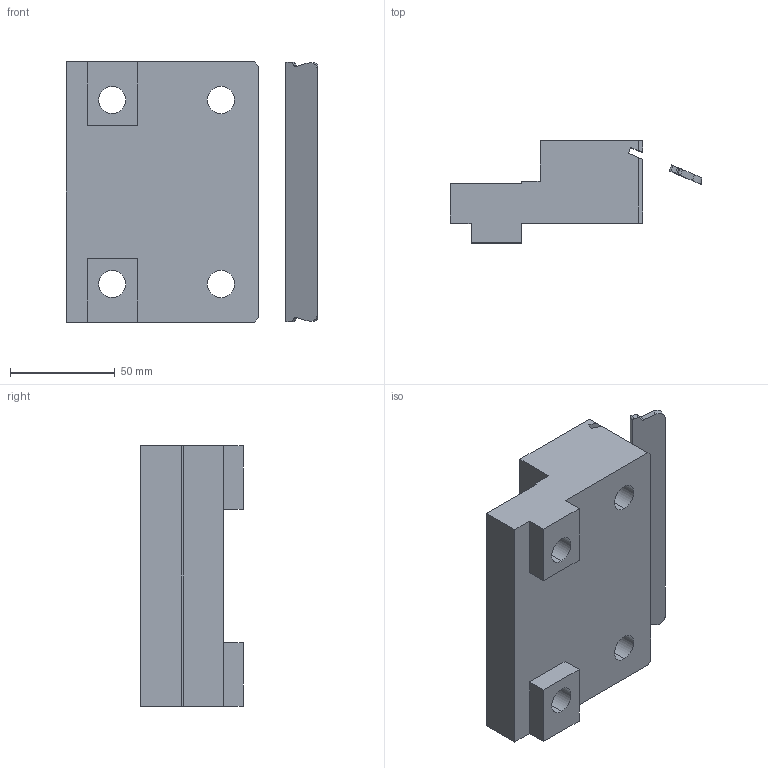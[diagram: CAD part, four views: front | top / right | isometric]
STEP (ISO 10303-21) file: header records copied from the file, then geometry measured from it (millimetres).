
FILE_DESCRIPTION (( 'STEP AP203' ), '1' );
FILE_NAME ('6921684106031_Niederzugbacke_NC125_Fix.STEP', '2009-03-11T08:02:29', ( 'Markus Römer' ), ( '' ), 'SwSTEP 2.0', 'SolidWorks 2008', '' );
FILE_SCHEMA (( 'CONFIG_CONTROL_DESIGN' ));
Length unit declared in the file: millimetre
Products named in the file (1): 6921684106031_Niederzugbacke_NC125_Fix
Bounding box: 120.32 x 49 x 124.4 mm (x, y, z)
Volume: 333925.5 mm3; surface area: 52252.8 mm2
Topology: 2 solids, 2 shells, 64 faces, 168 edges, 112 vertices
Faces by surface type: plane 40, cylinder 24
Entity records: 2071 total; most frequent: CARTESIAN_POINT 351, DIRECTION 344, ORIENTED_EDGE 336, EDGE_CURVE 168, LINE 118, VECTOR 118, AXIS2_PLACEMENT_3D 113, VERTEX_POINT 112
